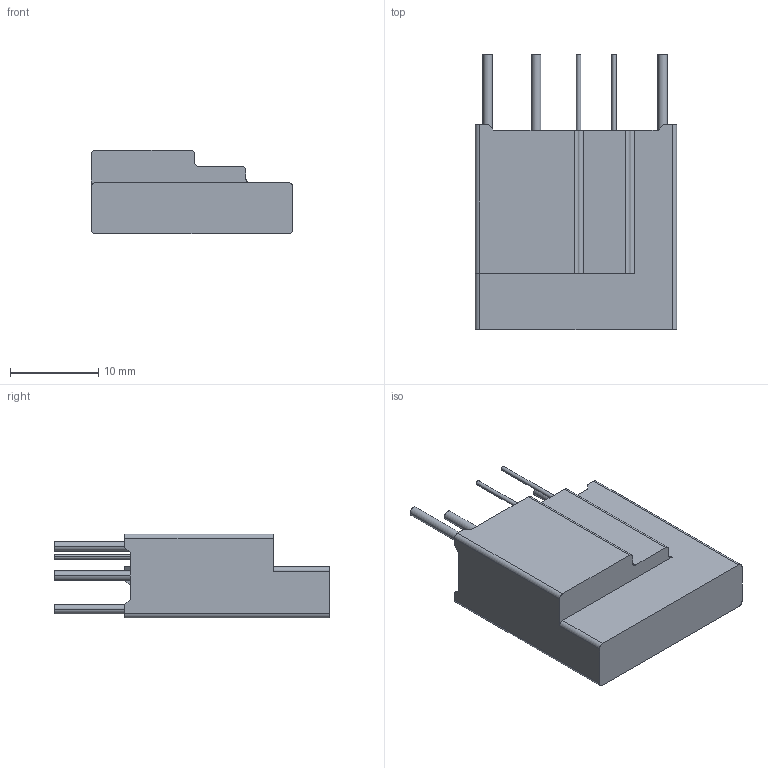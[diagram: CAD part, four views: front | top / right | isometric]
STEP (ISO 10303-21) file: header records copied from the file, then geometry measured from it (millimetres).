
FILE_DESCRIPTION((''),'2;1');
FILE_NAME('20S4301-IT-20200616','2020-06-18T',('set'),(''),'PRO/ENGINEER BY PARAMETRIC TECHNOLOGY CORPORATION, 2012310','PRO/ENGINEER BY PARAMETRIC TECHNOLOGY CORPORATION, 2012310','');
FILE_SCHEMA(('CONFIG_CONTROL_DESIGN','SHAPE_APPEARANCE_LAYERS_GROUPS'));
Length unit declared in the file: millimetre
Products named in the file (1): 20S4301-IT-20200616
Bounding box: 22.8 x 31.2 x 9.5 mm (x, y, z)
Volume: 1310 mm3; surface area: 3396.7 mm2
Topology: 1 solids, 2 shells, 110 faces, 302 edges, 201 vertices
Faces by surface type: plane 80, cylinder 30
Entity records: 3528 total; most frequent: CARTESIAN_POINT 613, ORIENTED_EDGE 604, DIRECTION 583, EDGE_CURVE 302, VECTOR 241, LINE 241, VERTEX_POINT 201, AXIS2_PLACEMENT_3D 171
